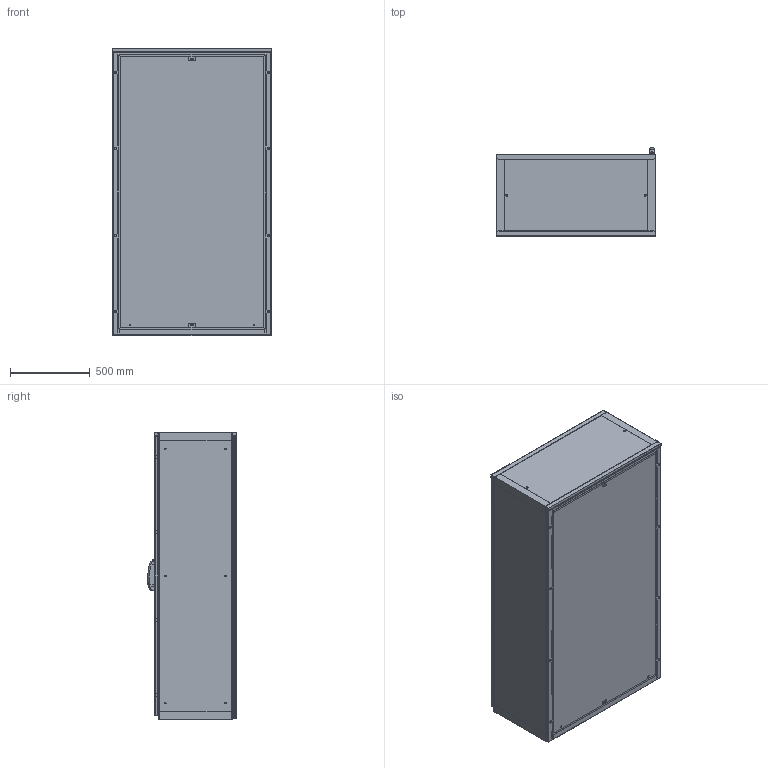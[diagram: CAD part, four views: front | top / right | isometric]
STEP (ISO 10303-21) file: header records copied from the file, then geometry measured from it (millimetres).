
FILE_DESCRIPTION (( 'STEP AP203' ), '1' );
FILE_NAME ('EMOX101805PR.STEP', '2025-06-03T09:32:38', ( '' ), ( '' ), 'SwSTEP 2.0', 'SolidWorks 2022', '' );
FILE_SCHEMA (( 'CONFIG_CONTROL_DESIGN' ));
Length unit declared in the file: millimetre
Products named in the file (9): AR_EMOX_Retro_singolo_1000x1800; AR_EMOX_Piastra_frontale_3.0_1000x1800; AR_EMOX_Tegolino_1000x0100; AR_EMOX_Tegolino_1000x0050; AR_EMOX_montaggio_porta_singlola_2.0_1000x1800_ANT_DX; AR_ENUX_nuova_maniglia_mesan; EMOX101805PR; AR_EMOX_struttura_1000x1800x0500; AR_EMOX_Porta_singola_2.0_1000x1800_ANT
Assembly tree (10 placements, depth 3):
  EMOX101805PR
    AR_EMOX_struttura_1000x1800x0500
    AR_EMOX_montaggio_porta_singlola_2.0_1000x1800_ANT_DX
      AR_EMOX_Porta_singola_2.0_1000x1800_ANT
      AR_ENUX_nuova_maniglia_mesan
    AR_EMOX_Retro_singolo_1000x1800
    AR_EMOX_Tegolino_1000x0050  x2
    AR_EMOX_Tegolino_1000x0100  x2
    AR_EMOX_Piastra_frontale_3.0_1000x1800
Bounding box: 1000 x 556.5 x 1809 mm (x, y, z)
Volume: 18019319.5 mm3; surface area: 19899855.6 mm2
Topology: 9 solids, 9 shells, 2595 faces, 7231 edges, 4648 vertices
Faces by surface type: plane 1405, cylinder 1055, cone 52, torus 38, bspline 25, sphere 20
Entity records: 85881 total; most frequent: CARTESIAN_POINT 17598, DIRECTION 13962, ORIENTED_EDGE 13822, EDGE_CURVE 6911, AXIS2_PLACEMENT_3D 4671, LINE 4620, VECTOR 4620, VERTEX_POINT 4488
